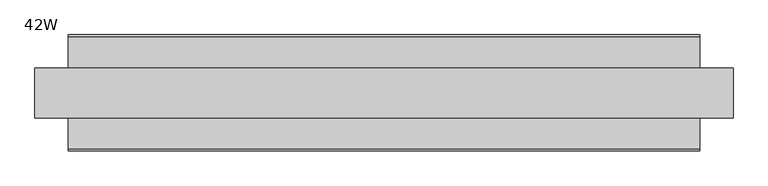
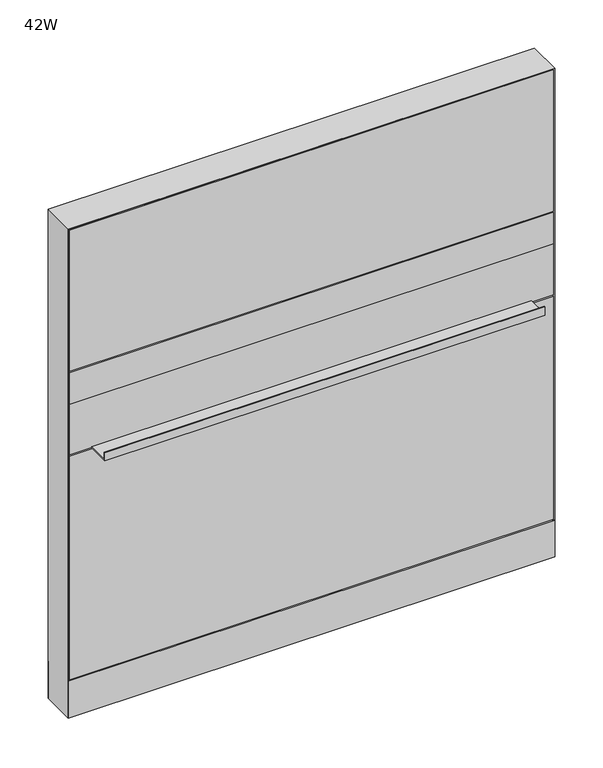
"""IFC4 building model written with IfcOpenShell, lengths in millimetres: furniture geometry, Steelcase - Montage - Frame - 45H - Enhanced Standard - Base and Desk-Height Cavity : 42W."""

import ifcopenshell
import ifcopenshell.guid

model = None  # the IFC model being written
_history = None  # IfcOwnerHistory: only IFC2X3 demands one
_inside = {}  # id of a spatial element -> (the spatial element, [elements in it])
_under = {}  # id of a project, library or spatial element -> (it, [spatial elements below it])
_declared = {}  # id of a project -> (the project, [libraries it declares])
_typed = {}  # id of a type object -> (the type object, [elements of that type])
_made_of = {}  # id of a material, layer set ... -> (it, [elements and type objects made of it])


def new_model(schema):
    """Start an empty IFC model of exactly this schema.

    Asked for "IFC4X3", IfcOpenShell would pick the latest addendum, in which some entities
    have other attributes; the version numbers below select the first issue.
    IFC2X3 requires an IfcOwnerHistory on every rooted entity: one is made here for all.
    """
    global model, _history
    if schema == "IFC4X3":
        model = ifcopenshell.file(schema_version=(4, 3, 0, 0))
    else:
        model = ifcopenshell.file(schema=schema)
    _inside.clear()
    _under.clear()
    _declared.clear()
    _typed.clear()
    _made_of.clear()
    _history = None
    if model.schema == "IFC2X3":
        org = make("IfcOrganization", Name="unknown")
        user = make(
            "IfcPersonAndOrganization",
            ThePerson=make("IfcPerson", FamilyName="unknown"),
            TheOrganization=org,
        )
        app = make(
            "IfcApplication",
            ApplicationDeveloper=org,
            Version="unknown",
            ApplicationFullName="unknown",
            ApplicationIdentifier="unknown",
        )
        _history = make(
            "IfcOwnerHistory",
            OwningUser=user,
            OwningApplication=app,
            ChangeAction="ADDED",
            CreationDate=0,
        )
    return model


def make(cls, **values):
    """One entity of the class cls with the attributes given. An attribute that is None is left unset."""
    return model.create_entity(
        cls, **{name: value for name, value in values.items() if value is not None}
    )


def rooted(cls, **values):
    """An entity with a GlobalId (a new one), such as an element, a storey or a relation."""
    return make(cls, GlobalId=ifcopenshell.guid.new(), OwnerHistory=_history, **values)


def si_unit(unit_type, name, prefix=None):
    """IfcSIUnit, for example si_unit("LENGTHUNIT", "METRE", prefix="MILLI")."""
    return make("IfcSIUnit", UnitType=unit_type, Prefix=prefix, Name=name)


def assignment(units):
    """IfcUnitAssignment: the units of a project."""
    return None if units is None else make("IfcUnitAssignment", Units=units)


def point(xyz):
    """IfcCartesianPoint."""
    return None if xyz is None else make("IfcCartesianPoint", Coordinates=xyz)


def direction(xyz):
    """IfcDirection."""
    return None if xyz is None else make("IfcDirection", DirectionRatios=xyz)


def frame(location, z_axis=None, x_axis=None):
    """IfcAxis2Placement3D, a coordinate frame: its origin and axes. An axis left out is left unset."""
    return make(
        "IfcAxis2Placement3D",
        Location=point(location),
        Axis=direction(z_axis),
        RefDirection=direction(x_axis),
    )


def frame_2d(location, x_axis=None):
    """IfcAxis2Placement2D, a coordinate frame in the plane: its origin and x axis."""
    return make(
        "IfcAxis2Placement2D", Location=point(location), RefDirection=direction(x_axis)
    )


def origin():
    """The frame at (0, 0, 0) with its axes left unset."""
    return frame((0.0, 0.0, 0.0))


def origin_with_axes():
    """The frame at (0, 0, 0) with the z axis (0, 0, 1) and the x axis (1, 0, 0) written out."""
    return frame((0.0, 0.0, 0.0), z_axis=(0.0, 0.0, 1.0), x_axis=(1.0, 0.0, 0.0))


def place(relative_to, where):
    """IfcLocalPlacement: puts the frame where relative to a parent placement (None: the world)."""
    return make(
        "IfcLocalPlacement", PlacementRelTo=relative_to, RelativePlacement=where
    )


def context(
    kind, dimensions, precision=None, world=None, true_north=None, identifier=None
):
    """IfcGeometricRepresentationContext, for example the 3D "Model" context."""
    return make(
        "IfcGeometricRepresentationContext",
        ContextIdentifier=identifier,
        ContextType=kind,
        CoordinateSpaceDimension=dimensions,
        Precision=precision,
        WorldCoordinateSystem=world,
        TrueNorth=true_north,
    )


def project(units=None, contexts=None):
    """IfcProject with its units and contexts."""
    return rooted(
        "IfcProject",
        Name="project",
        RepresentationContexts=contexts,
        UnitsInContext=assignment(units),
    )


def spatial(cls, under=None, at=None, **own):
    """A site, building, storey or space (cls), placed at a placement, below another one or the project."""
    s = rooted(cls, ObjectPlacement=at, **own)
    if under is not None:
        _under.setdefault(under.id(), (under, []))[1].append(s)
    return s


def polyline(points):
    """IfcPolyline through the points."""
    return make("IfcPolyline", Points=[point(p) for p in points])


def circle_curve(where, radius):
    """IfcCircle in the frame where."""
    return make("IfcCircle", Position=where, Radius=radius)


def trimmed(basis, trim1, trim2, sense, master):
    """IfcTrimmedCurve: the piece of a basis curve between two trims."""
    return make(
        "IfcTrimmedCurve",
        BasisCurve=basis,
        Trim1=trim1,
        Trim2=trim2,
        SenseAgreement=sense,
        MasterRepresentation=master,
    )


def segment(curve, same_sense, transition):
    """IfcCompositeCurveSegment."""
    return make(
        "IfcCompositeCurveSegment",
        Transition=transition,
        SameSense=same_sense,
        ParentCurve=curve,
    )


def composite_curve(segments, self_intersect=None):
    """IfcCompositeCurve: segments joined end to end."""
    return make("IfcCompositeCurve", Segments=segments, SelfIntersect=self_intersect)


def outline(outer, holes=None, kind="AREA"):
    """IfcArbitraryClosedProfileDef: a profile drawn as a closed curve; with holes, ...WithVoids."""
    if holes is None:
        return make("IfcArbitraryClosedProfileDef", ProfileType=kind, OuterCurve=outer)
    return make(
        "IfcArbitraryProfileDefWithVoids",
        ProfileType=kind,
        OuterCurve=outer,
        InnerCurves=holes,
    )


def extrude(swept, where, along, depth):
    """IfcExtrudedAreaSolid: the profile swept, set in the frame where, extruded along a direction by depth."""
    return make(
        "IfcExtrudedAreaSolid",
        SweptArea=swept,
        Position=where,
        ExtrudedDirection=direction(along),
        Depth=depth,
    )


def faces_of(points, faces, orient=None, outer=None):
    """IfcFace entities. A face is a list of loops; a loop is a list of indices into points, from 0.

    orient and outer hold one flag for each loop. By default every Orientation is true, the
    first loop of a face is its IfcFaceOuterBound and the others are IfcFaceBound.
    """
    made = []
    for i, loops in enumerate(faces):
        bounds = []
        for j, loop in enumerate(loops):
            is_outer = j == 0 if outer is None else outer[i][j]
            bounds.append(
                make(
                    "IfcFaceOuterBound" if is_outer else "IfcFaceBound",
                    Bound=make("IfcPolyLoop", Polygon=[points[k] for k in loop]),
                    Orientation=True if orient is None else orient[i][j],
                )
            )
        made.append(make("IfcFace", Bounds=bounds))
    return made


def faceted_brep(points, faces, orient=None, outer=None, voids=None):
    """IfcFacetedBrep: a solid bounded by flat faces; with voids (closed shells), ...WithVoids."""
    shared = [point(p) for p in points]
    hull = make("IfcClosedShell", CfsFaces=faces_of(shared, faces, orient, outer))
    if voids is None:
        return make("IfcFacetedBrep", Outer=hull)
    return make(
        "IfcFacetedBrepWithVoids",
        Outer=hull,
        Voids=[
            make(cls, CfsFaces=faces_of(shared, fs, o, b)) for cls, fs, o, b in voids
        ],
    )


def shape(context_of_items, identifier, shape_type, items):
    """IfcShapeRepresentation: the items that make up one representation, for example the "Body"."""
    return make(
        "IfcShapeRepresentation",
        ContextOfItems=context_of_items,
        RepresentationIdentifier=identifier,
        RepresentationType=shape_type,
        Items=items,
    )


def source(mapping_origin, context_of_items, identifier, shape_type, items):
    """IfcRepresentationMap: a shape defined once, which mapped items show again and again."""
    return make(
        "IfcRepresentationMap",
        MappingOrigin=mapping_origin,
        MappedRepresentation=shape(context_of_items, identifier, shape_type, items),
    )


def transform(
    local_origin,
    x_axis=None,
    y_axis=None,
    z_axis=None,
    scale=None,
    scale2=None,
    scale3=None,
    uniform=True,
):
    """IfcCartesianTransformationOperator3D, or its non-uniform kind. x_axis, y_axis, z_axis: its Axis1, 2, 3."""
    if uniform:
        return make(
            "IfcCartesianTransformationOperator3D",
            Axis1=direction(x_axis),
            Axis2=direction(y_axis),
            LocalOrigin=point(local_origin),
            Scale=scale,
            Axis3=direction(z_axis),
        )
    return make(
        "IfcCartesianTransformationOperator3DnonUniform",
        Axis1=direction(x_axis),
        Axis2=direction(y_axis),
        LocalOrigin=point(local_origin),
        Scale=scale,
        Axis3=direction(z_axis),
        Scale2=scale2,
        Scale3=scale3,
    )


def mapped(mapping_source, mapping_target):
    """IfcMappedItem: shows the shape of a source again, moved by a transform."""
    return make(
        "IfcMappedItem", MappingSource=mapping_source, MappingTarget=mapping_target
    )


def made_of(thing, what):
    """Note that an element or type object is made of a material, layer set ...; save() writes the relation."""
    if what is not None:
        _made_of.setdefault(what.id(), (what, []))[1].append(thing)
    return thing


def element(
    cls,
    number,
    at=None,
    inside=None,
    cuts=None,
    type_object=None,
    material=None,
    context=None,
    identifier="Body",
    shape_type=None,
    held_by="IfcProductDefinitionShape",
    body=None,
    shapes=None,
    **own,
):
    """One element of the class cls, such as IfcWall. Its Tag is "e" and its number.

    at: its placement. inside: the storey or other place that contains it. cuts: it is an
    opening in that element (IfcRelVoidsElement). A single representation is given by context,
    identifier, shape_type and body (its items); several are given by shapes. held_by: the class
    of the entity that holds the representations. save() writes the other relations.
    """
    e = rooted(cls, Tag="e%d" % number, ObjectPlacement=at, **own)
    if body is not None:
        shapes = [shape(context, identifier, shape_type, body)]
    if shapes is not None:
        e.Representation = make(held_by, Representations=shapes)
    if inside is not None:
        _inside.setdefault(inside.id(), (inside, []))[1].append(e)
    if cuts is not None:
        rooted(
            "IfcRelVoidsElement", RelatingBuildingElement=cuts, RelatedOpeningElement=e
        )
    if type_object is not None:
        _typed.setdefault(type_object.id(), (type_object, []))[1].append(e)
    return made_of(e, material)


def aggregate(whole, parts):
    """IfcRelAggregates: a whole, such as a stair, and the parts it consists of."""
    return rooted("IfcRelAggregates", RelatingObject=whole, RelatedObjects=parts)


def save(model, path):
    """Write the relations noted so far, then the file.

    IfcRelAggregates (storeys below a building ...), IfcRelContainedInSpatialStructure (elements
    in a storey), IfcRelDefinesByType, IfcRelAssociatesMaterial and IfcRelDeclares: one each for
    every whole, place, type object, material and project.
    """
    for whole, parts in _under.values():
        aggregate(whole, parts)
    for where, things in _inside.values():
        rooted(
            "IfcRelContainedInSpatialStructure",
            RelatedElements=things,
            RelatingStructure=where,
        )
    for kind, things in _typed.values():
        rooted("IfcRelDefinesByType", RelatedObjects=things, RelatingType=kind)
    for what, things in _made_of.values():
        rooted("IfcRelAssociatesMaterial", RelatedObjects=things, RelatingMaterial=what)
    for by, libraries in _declared.values():
        rooted("IfcRelDeclares", RelatingContext=by, RelatedDefinitions=libraries)
    model.write(path)


def furniture_42w_5b8a10ca(model_context):
    return source(origin(), model_context, "Body", "SolidModel", [
        extrude(outline(polyline([(3.175, 31.7500194), (3.175, 38.1000194), (1063.625, 38.1000194), (1063.625, 31.7500194), (3.175, 31.7500194)])), frame((0.0, 0.0, 92.075), z_axis=(0.0, 0.0, 1.0), x_axis=(1.0, 0.0, 0.0)), (0.0, 0.0, 1.0), 517.525),
        extrude(outline(polyline([(88.8960768, 612.775), (38.0960752, 612.775), (38.0960752, 615.315), (86.3560768, 615.315), (86.3560768, 631.825), (88.8960768, 631.825), (88.8960768, 612.775)])), frame((50.8000015, 0.0, 0.0), z_axis=(1.0, 0.0, 0.0), x_axis=(0.0, 1.0, 0.0)), (0.0, 0.0, 1.0), 965.199997),
        extrude(outline(polyline([(3.175, 31.7460752), (3.175, 38.0960752), (1063.625, 38.0960752), (1063.625, 31.7460752), (3.175, 31.7460752)])), frame((0.0, 0.0, 730.2499516), z_axis=(0.0, 0.0, 1.0), x_axis=(1.0, 0.0, 0.0)), (0.0, 0.0, 1.0), 73.0250484),
        extrude(outline(polyline([(3.175, 31.7460752), (3.175, 38.0960752), (1063.625, 38.0960752), (1063.625, 31.7460752), (3.175, 31.7460752)])), frame((0.0, 0.0, 612.775), z_axis=(0.0, 0.0, 1.0), x_axis=(1.0, 0.0, 0.0)), (0.0, 0.0, 1.0), 117.4749516),
        extrude(outline(polyline([(3.175, 31.7500194), (3.175, 38.1000194), (1063.625, 38.1000194), (1063.625, 31.7500194), (3.175, 31.7500194)])), frame((0.0, 0.0, 806.45), z_axis=(0.0, 0.0, 1.0), x_axis=(1.0, 0.0, 0.0)), (0.0, 0.0, 1.0), 327.025),
        extrude(outline(polyline([(3.175, -31.7500194), (1063.625, -31.7500194), (1063.625, -38.1000194), (3.175, -38.1000194), (3.175, -31.7500194)])), frame((0.0, 0.0, 92.075), z_axis=(0.0, 0.0, 1.0), x_axis=(1.0, 0.0, 0.0)), (0.0, 0.0, 1.0), 517.525),
        extrude(outline(polyline([(-88.8960768, 612.775), (-88.8960768, 631.825), (-86.3560768, 631.825), (-86.3560768, 615.315), (-38.0960752, 615.315), (-38.0960752, 612.775), (-88.8960768, 612.775)])), frame((50.8000015, 0.0, 0.0), z_axis=(1.0, 0.0, 0.0), x_axis=(0.0, 1.0, 0.0)), (0.0, 0.0, 1.0), 965.199997),
        extrude(outline(polyline([(3.175, -31.7460752), (1063.625, -31.7460752), (1063.625, -38.0960752), (3.175, -38.0960752), (3.175, -31.7460752)])), frame((0.0, 0.0, 730.2499516), z_axis=(0.0, 0.0, 1.0), x_axis=(1.0, 0.0, 0.0)), (0.0, 0.0, 1.0), 73.0250484),
        extrude(outline(polyline([(3.175, -31.7460752), (1063.625, -31.7460752), (1063.625, -38.0960752), (3.175, -38.0960752), (3.175, -31.7460752)])), frame((0.0, 0.0, 612.775), z_axis=(0.0, 0.0, 1.0), x_axis=(1.0, 0.0, 0.0)), (0.0, 0.0, 1.0), 117.4749516),
        extrude(outline(polyline([(3.175, -31.7500194), (1063.625, -31.7500194), (1063.625, -38.1000194), (3.175, -38.1000194), (3.175, -31.7500194)])), frame((0.0, 0.0, 806.45), z_axis=(0.0, 0.0, 1.0), x_axis=(1.0, 0.0, 0.0)), (0.0, 0.0, 1.0), 327.025),
        extrude(outline(polyline([(1060.4499879, 31.749953), (1060.4499879, -31.7499985), (6.35, -31.7499985), (6.35, 31.749953), (1060.4499879, 31.749953)])), frame((0.0, 0.0, 809.6250242), z_axis=(0.0, 0.0, 1.0), x_axis=(1.0, 0.0, 0.0)), (0.0, 0.0, 1.0), 320.6749273),
        extrude(outline(polyline([(1060.4499879, 31.749953), (1060.4499879, -31.7499985), (6.35, -31.7499985), (6.35, 31.749953), (1060.4499879, 31.749953)])), frame((0.0, 0.0, 619.125), z_axis=(0.0, 0.0, 1.0), x_axis=(1.0, 0.0, 0.0)), (0.0, 0.0, 1.0), 177.8000242),
        extrude(outline(polyline([(1060.4499879, 31.7500016), (1060.4499879, -31.7499985), (6.35, -31.7499985), (6.35, 31.7500016), (1060.4499879, 31.7500016)])), frame((0.0, 0.0, 88.899997), z_axis=(0.0, 0.0, 1.0), x_axis=(1.0, 0.0, 0.0)), (0.0, 0.0, 1.0), 517.525003),
        extrude(outline(polyline([(6.350003, -31.7499985), (1060.449997, -31.7499985), (1066.8, -38.1000015), (0.0, -38.1000015), (6.350003, -31.7499985)])), frame((0.0, 0.0, 4.064), z_axis=(0.0, 0.0, 1.0), x_axis=(1.0, 0.0, 0.0)), (0.0, 0.0, 1.0), 84.835997),
        extrude(outline(polyline([(6.3500002, 31.7500017), (0.0, 38.1000015), (1066.8, 38.1000015), (1060.4500002, 31.7500017), (6.3500002, 31.7500017)])), frame((0.0, 0.0, 4.064), z_axis=(0.0, 0.0, 1.0), x_axis=(1.0, 0.0, 0.0)), (0.0, 0.0, 1.0), 84.835997),
        faceted_brep([(1066.8, -38.1000015, 1136.65), (0.0, -38.1000015, 1136.65), (6.3500484, -31.749953, 1130.2999516), (1060.4499516, -31.749953, 1130.2999516), (6.3500484, 31.749953, 1130.2999516), (1060.4499516, 31.749953, 1130.2999516), (0.0, 38.1000015, 1136.65), (1066.8, 38.1000015, 1136.65)], [[[0, 1, 2, 3]], [[3, 2, 4, 5]], [[6, 7, 5, 4]], [[1, 0, 7, 6]], [[2, 1, 6, 4]], [[0, 3, 5, 7]]]),
        extrude(outline(composite_curve([segment(trimmed(circle_curve(frame_2d((44.45, 0.0)), 15.24), [point((29.21, 0.0))], [point((59.69, 0.0))], False, "CARTESIAN"), True, "CONTINUOUS"), segment(trimmed(circle_curve(frame_2d((44.45, 0.0)), 15.24), [point((59.69, 0.0))], [point((29.21, 0.0))], False, "CARTESIAN"), True, "CONTINUOUS")], self_intersect=False)), origin_with_axes(), (0.0, 0.0, 1.0), 4.064),
        extrude(outline(composite_curve([segment(trimmed(circle_curve(frame_2d((1022.35, 0.0)), 15.24), [point((1007.11, 0.0))], [point((1037.59, 0.0))], False, "CARTESIAN"), True, "CONTINUOUS"), segment(trimmed(circle_curve(frame_2d((1022.35, 0.0)), 15.24), [point((1037.59, 0.0))], [point((1007.11, 0.0))], False, "CARTESIAN"), True, "CONTINUOUS")], self_intersect=False)), origin_with_axes(), (0.0, 0.0, 1.0), 4.064),
        faceted_brep([(1066.8, -38.1000106, 4.064), (1066.8, 38.1000015, 4.064), (1066.8, 38.1000015, 1136.65), (1066.8, -38.1000106, 1136.6499637), (0.0, 38.1000015, 4.064), (0.0, -38.1000015, 4.064), (0.0, -38.1000015, 1136.65), (0.0, 38.1000015, 1136.65), (1060.4499879, 31.7500017, 606.425), (6.35, 31.7500017, 606.425), (6.3499998, 31.7500017, 619.125), (1060.4499879, 31.7500017, 619.125), (6.35, -31.7499985, 619.125), (1060.4499879, -31.7499985, 619.125), (6.350003, -31.7499985, 606.425), (1060.4499879, -31.7499985, 606.425), (1060.4499879, 31.7500017, 796.9250242), (6.35, 31.7500017, 796.9250242), (6.3499998, 31.7500017, 809.6250242), (1060.4499879, 31.7500017, 809.6250242), (6.35, -31.7499985, 809.6250242), (1060.4499879, -31.7499985, 809.6250242), (6.350003, -31.7499985, 796.9250242), (1060.4499879, -31.7499985, 796.9250242), (6.35, 31.7500015, 4.064), (6.35, -31.7500015, 4.064), (1060.4499879, 31.7499894, 4.064), (1060.4499879, -31.7499985, 4.064), (6.35, 31.7500015, 1130.3), (6.35, -31.7500015, 1130.3), (1060.4499879, -31.7499985, 1130.2999516), (1060.4499879, 31.7499896, 1130.2999516)], [[[0, 1, 2, 3]], [[4, 5, 6, 7]], [[8, 9, 10, 11]], [[11, 10, 12, 13]], [[13, 12, 14, 15]], [[9, 8, 15, 14]], [[16, 17, 18, 19]], [[19, 18, 20, 21]], [[21, 20, 22, 23]], [[17, 16, 23, 22]], [[24, 25, 5, 4]], [[26, 1, 0, 27]], [[24, 4, 7, 28, 18, 17, 10, 9]], [[5, 25, 14, 12, 22, 20, 29, 6]], [[20, 18, 28, 29]], [[25, 24, 9, 14]], [[10, 17, 22, 12]], [[19, 21, 30, 31]], [[26, 27, 15, 8]], [[16, 11, 13, 23]], [[27, 0, 3, 30, 21, 23, 13, 15]], [[1, 26, 8, 11, 16, 19, 31, 2]], [[7, 6, 29, 28]], [[3, 2, 31, 30]]]),
    ])


if __name__ == "__main__":
    model = new_model("IFC4")
    model_context = context("Model", 3, world=origin())
    ifc_project = project(units=[si_unit("LENGTHUNIT", "METRE", prefix="MILLI")], contexts=[model_context])
    site = spatial("IfcSite", under=ifc_project)
    building = spatial("IfcBuilding", under=site)
    placement = place(None, origin())
    furniture_42w_shape = furniture_42w_5b8a10ca(model_context)
    element("IfcFurniture", 1, ObjectType="Steelcase - Montage - Frame - 45H - Enhanced Standard - Base and Desk-Height Cavity : 42W", at=placement, inside=building, context=model_context, shape_type="MappedRepresentation", body=[
        mapped(furniture_42w_shape, transform((0.0, 0.0, 0.0), x_axis=(1.0, 0.0, 0.0), y_axis=(0.0, 1.0, 0.0), z_axis=(0.0, 0.0, 1.0))),
    ])
    save(model, "model.ifc")
